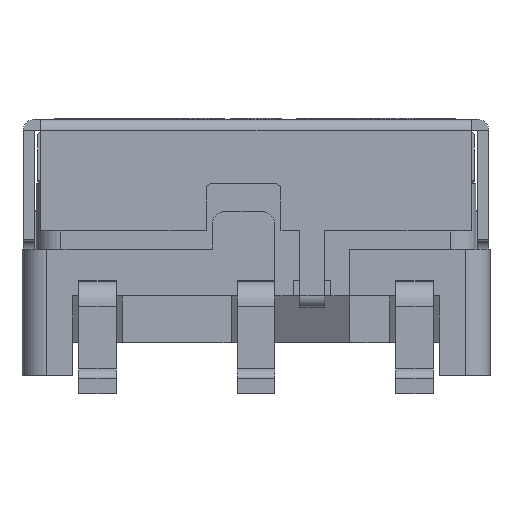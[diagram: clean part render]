
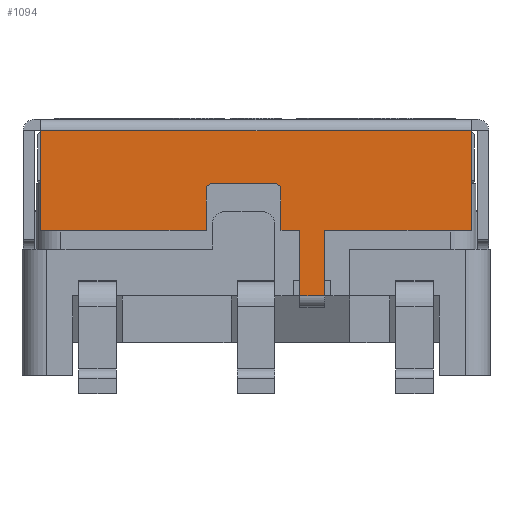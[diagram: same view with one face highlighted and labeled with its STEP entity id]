
A CAD part, front view. The second image highlights one B-rep face of the part: STEP entity #1094.
In plain terms, the highlighted planar face has unit normal (0, -1, 0) as drawn and (0, 0, 1) by its records, which use the part's own axes.
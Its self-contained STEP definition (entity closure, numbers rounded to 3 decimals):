
#1094 = ADVANCED_FACE( '', ( #2801 ), #2802, .F. );
#2801 = FACE_OUTER_BOUND( '', #5201, .T. );
#2802 = PLANE( '', #5202 );
#5201 = EDGE_LOOP( '', ( #8145, #8146, #8147, #8148, #8149, #8150, #8151, #8152, #8153, #8154, #8155, #8156, #8157, #8158 ) );
#5202 = AXIS2_PLACEMENT_3D( '', #8159, #8160, #8161 );
#8145 = ORIENTED_EDGE( '', *, *, #15280, .F. );
#8146 = ORIENTED_EDGE( '', *, *, #14765, .F. );
#8147 = ORIENTED_EDGE( '', *, *, #15281, .F. );
#8148 = ORIENTED_EDGE( '', *, *, #15282, .F. );
#8149 = ORIENTED_EDGE( '', *, *, #15283, .F. );
#8150 = ORIENTED_EDGE( '', *, *, #15284, .F. );
#8151 = ORIENTED_EDGE( '', *, *, #15285, .T. );
#8152 = ORIENTED_EDGE( '', *, *, #15286, .T. );
#8153 = ORIENTED_EDGE( '', *, *, #15078, .F. );
#8154 = ORIENTED_EDGE( '', *, *, #15287, .F. );
#8155 = ORIENTED_EDGE( '', *, *, #15288, .F. );
#8156 = ORIENTED_EDGE( '', *, *, #15289, .T. );
#8157 = ORIENTED_EDGE( '', *, *, #14974, .T. );
#8158 = ORIENTED_EDGE( '', *, *, #15290, .F. );
#8159 = CARTESIAN_POINT( '', ( 3.45, -0.18, 3.73 ) );
#8160 = DIRECTION( '', ( 0., 0., -1. ) );
#8161 = DIRECTION( '', ( -1., 0., 0. ) );
#14765 = EDGE_CURVE( '', #17721, #17722, #17723, .F. );
#14974 = EDGE_CURVE( '', #18095, #18101, #18103, .T. );
#15078 = EDGE_CURVE( '', #18285, #18286, #18287, .T. );
#15280 = EDGE_CURVE( '', #17722, #18636, #18637, .T. );
#15281 = EDGE_CURVE( '', #18638, #17721, #18639, .T. );
#15282 = EDGE_CURVE( '', #18640, #18638, #18641, .F. );
#15283 = EDGE_CURVE( '', #18642, #18640, #18643, .T. );
#15284 = EDGE_CURVE( '', #18644, #18642, #18645, .T. );
#15285 = EDGE_CURVE( '', #18644, #18646, #18647, .T. );
#15286 = EDGE_CURVE( '', #18646, #18286, #18648, .T. );
#15287 = EDGE_CURVE( '', #18649, #18285, #18650, .T. );
#15288 = EDGE_CURVE( '', #18651, #18649, #18652, .T. );
#15289 = EDGE_CURVE( '', #18651, #18095, #18653, .T. );
#15290 = EDGE_CURVE( '', #18636, #18101, #18654, .T. );
#17721 = VERTEX_POINT( '', #22099 );
#17722 = VERTEX_POINT( '', #22100 );
#17723 = CIRCLE( '', #22101, 0.1 );
#18095 = VERTEX_POINT( '', #22604 );
#18101 = VERTEX_POINT( '', #22612 );
#18103 = LINE( '', #22615, #22616 );
#18285 = VERTEX_POINT( '', #22854 );
#18286 = VERTEX_POINT( '', #22855 );
#18287 = LINE( '', #22856, #22857 );
#18636 = VERTEX_POINT( '', #23338 );
#18637 = LINE( '', #23339, #23340 );
#18638 = VERTEX_POINT( '', #23341 );
#18639 = LINE( '', #23342, #23343 );
#18640 = VERTEX_POINT( '', #23344 );
#18641 = CIRCLE( '', #23345, 0.1 );
#18642 = VERTEX_POINT( '', #23346 );
#18643 = LINE( '', #23347, #23348 );
#18644 = VERTEX_POINT( '', #23349 );
#18645 = LINE( '', #23350, #23351 );
#18646 = VERTEX_POINT( '', #23352 );
#18647 = LINE( '', #23353, #23354 );
#18648 = LINE( '', #23355, #23356 );
#18649 = VERTEX_POINT( '', #23357 );
#18650 = LINE( '', #23358, #23359 );
#18651 = VERTEX_POINT( '', #23360 );
#18652 = LINE( '', #23361, #23362 );
#18653 = LINE( '', #23363, #23364 );
#18654 = LINE( '', #23365, #23366 );
#22099 = CARTESIAN_POINT( '', ( -0.7, -1.03, 3.73 ) );
#22100 = CARTESIAN_POINT( '', ( -0.8, -1.13, 3.73 ) );
#22101 = AXIS2_PLACEMENT_3D( '', #28175, #28176, #28177 );
#22604 = CARTESIAN_POINT( '', ( -3.45, -0.18, 3.73 ) );
#22612 = CARTESIAN_POINT( '', ( -3.45, -1.78, 3.73 ) );
#22615 = CARTESIAN_POINT( '', ( -3.45, -0.18, 3.73 ) );
#22616 = VECTOR( '', #28435, 1000. );
#22854 = CARTESIAN_POINT( '', ( 1.1, -1.78, 3.73 ) );
#22855 = CARTESIAN_POINT( '', ( 1.1, -2.83, 3.73 ) );
#22856 = CARTESIAN_POINT( '', ( 1.1, -1.78, 3.73 ) );
#22857 = VECTOR( '', #28573, 1000. );
#23338 = CARTESIAN_POINT( '', ( -0.8, -1.78, 3.73 ) );
#23339 = CARTESIAN_POINT( '', ( -0.8, -0.18, 3.73 ) );
#23340 = VECTOR( '', #28799, 1000. );
#23341 = CARTESIAN_POINT( '', ( 0.3, -1.03, 3.73 ) );
#23342 = CARTESIAN_POINT( '', ( 3.45, -1.03, 3.73 ) );
#23343 = VECTOR( '', #28800, 1000. );
#23344 = CARTESIAN_POINT( '', ( 0.4, -1.13, 3.73 ) );
#23345 = AXIS2_PLACEMENT_3D( '', #28801, #28802, #28803 );
#23346 = CARTESIAN_POINT( '', ( 0.4, -1.78, 3.73 ) );
#23347 = CARTESIAN_POINT( '', ( 0.4, -0.18, 3.73 ) );
#23348 = VECTOR( '', #28804, 1000. );
#23349 = CARTESIAN_POINT( '', ( 0.7, -1.78, 3.73 ) );
#23350 = CARTESIAN_POINT( '', ( 3.45, -1.78, 3.73 ) );
#23351 = VECTOR( '', #28805, 1000. );
#23352 = CARTESIAN_POINT( '', ( 0.7, -2.83, 3.73 ) );
#23353 = CARTESIAN_POINT( '', ( 0.7, -1.78, 3.73 ) );
#23354 = VECTOR( '', #28806, 1000. );
#23355 = CARTESIAN_POINT( '', ( 0.7, -2.83, 3.73 ) );
#23356 = VECTOR( '', #28807, 1000. );
#23357 = CARTESIAN_POINT( '', ( 3.45, -1.78, 3.73 ) );
#23358 = CARTESIAN_POINT( '', ( 3.45, -1.78, 3.73 ) );
#23359 = VECTOR( '', #28808, 1000. );
#23360 = CARTESIAN_POINT( '', ( 3.45, -0.18, 3.73 ) );
#23361 = CARTESIAN_POINT( '', ( 3.45, -0.18, 3.73 ) );
#23362 = VECTOR( '', #28809, 1000. );
#23363 = CARTESIAN_POINT( '', ( 3.45, -0.18, 3.73 ) );
#23364 = VECTOR( '', #28810, 1000. );
#23365 = CARTESIAN_POINT( '', ( 3.45, -1.78, 3.73 ) );
#23366 = VECTOR( '', #28811, 1000. );
#28175 = CARTESIAN_POINT( '', ( -0.7, -1.13, 3.73 ) );
#28176 = DIRECTION( '', ( 0., 0., -1. ) );
#28177 = DIRECTION( '', ( -1., 0., 0. ) );
#28435 = DIRECTION( '', ( 0., -1., 0. ) );
#28573 = DIRECTION( '', ( 0., -1., 0. ) );
#28799 = DIRECTION( '', ( 0., -1., 0. ) );
#28800 = DIRECTION( '', ( -1., 0., 0. ) );
#28801 = CARTESIAN_POINT( '', ( 0.3, -1.13, 3.73 ) );
#28802 = DIRECTION( '', ( 0., 0., -1. ) );
#28803 = DIRECTION( '', ( -1., 0., 0. ) );
#28804 = DIRECTION( '', ( 0., 1., 0. ) );
#28805 = DIRECTION( '', ( -1., 0., 0. ) );
#28806 = DIRECTION( '', ( 0., -1., 0. ) );
#28807 = DIRECTION( '', ( 1., 0., 0. ) );
#28808 = DIRECTION( '', ( -1., 0., 0. ) );
#28809 = DIRECTION( '', ( 0., -1., 0. ) );
#28810 = DIRECTION( '', ( -1., 0., 0. ) );
#28811 = DIRECTION( '', ( -1., 0., 0. ) );
